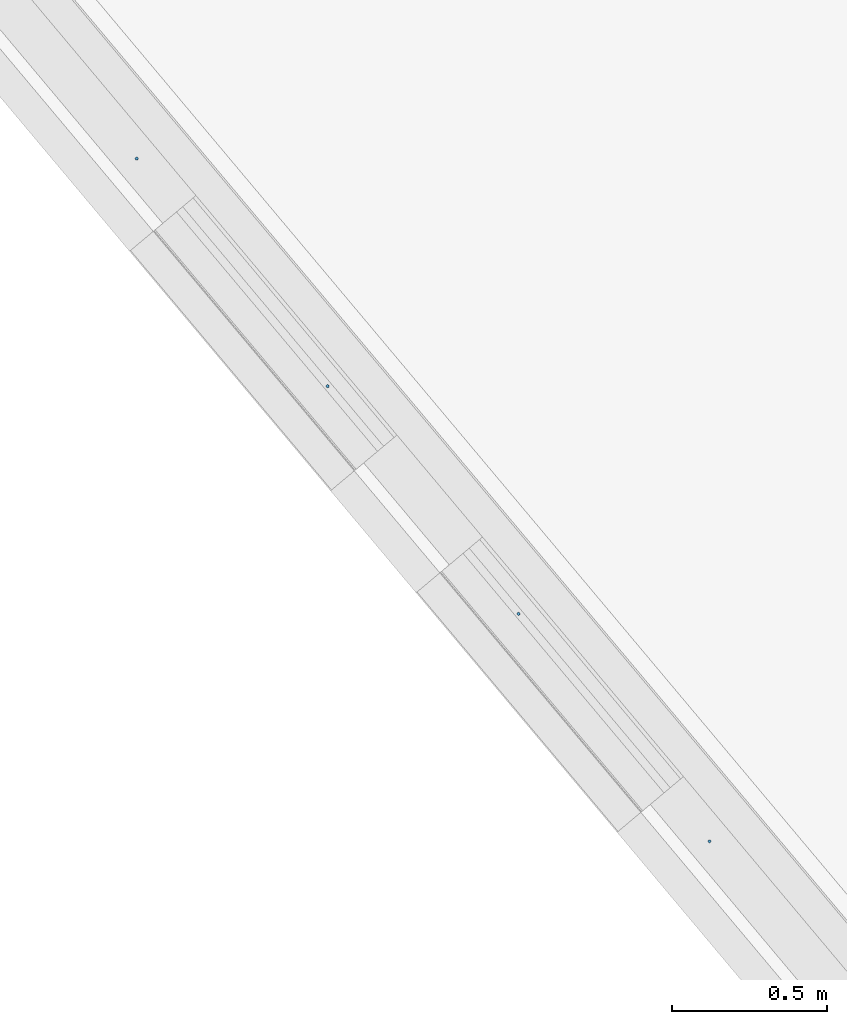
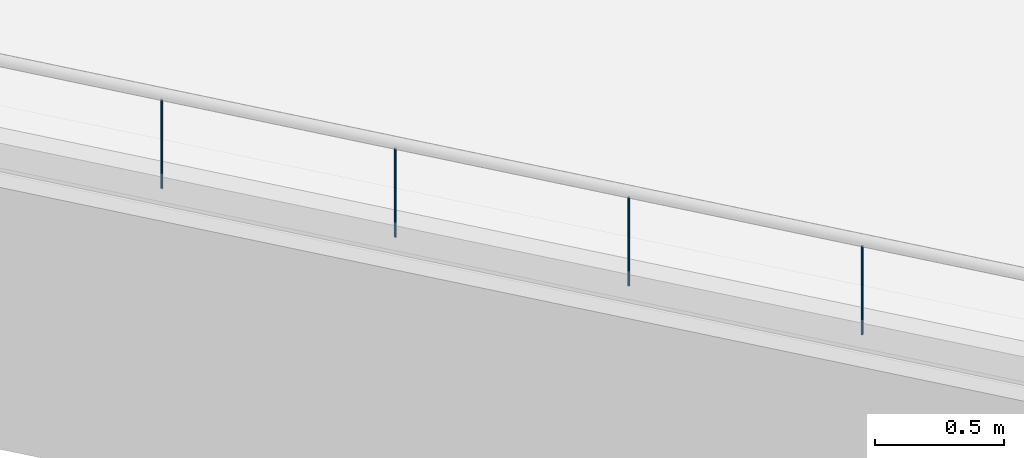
# One storey, part 8 of 321: 4 members, 1 element without a shape of its own.
"""IFC2X3 building model written with IfcOpenShell, lengths in millimetres."""

from ifc_helpers import new_model, entity, si_unit, converted_unit, derived_unit, money_unit, direction, frame, origin_with_axes, place, context, subcontext, project, spatial, faceted_brep, source, transform, mapped, material, type_object, type_shapes, element, aggregate, save


model = new_model("IFC2X3")

# Units and contexts
model_context = context("Model", 3, precision=0.01, world=origin_with_axes(), true_north=direction((0.0, 1.0)))
plan_context = context("Plan", 3, precision=0.01, world=origin_with_axes(), true_north=direction((0.0, 1.0)))
body_context = subcontext(model_context, "Body", "Model", "MODEL_VIEW")
ifc_project = project(units=[si_unit("LENGTHUNIT", "METRE", prefix="MILLI"), si_unit("AREAUNIT", "SQUARE_METRE"), si_unit("VOLUMEUNIT", "CUBIC_METRE"), converted_unit("PLANEANGLEUNIT", "DEGREE", entity("IfcPlaneAngleMeasure", 0.0174532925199), si_unit("PLANEANGLEUNIT", "RADIAN"), dimensions=[0, 0, 0, 0, 0, 0, 0]), money_unit("EUR"), converted_unit("TIMEUNIT", "Year", entity("IfcTimeMeasure", 31556926.0), si_unit("TIMEUNIT", "SECOND"), dimensions=[0, 0, 1, 0, 0, 0, 0]), si_unit("MASSUNIT", "GRAM", prefix="KILO"), si_unit("THERMODYNAMICTEMPERATUREUNIT", "DEGREE_CELSIUS"), si_unit("LUMINOUSINTENSITYUNIT", "LUMEN"), si_unit("ENERGYUNIT", "JOULE", prefix="MEGA"), derived_unit("THERMALCONDUCTANCEUNIT", [(si_unit("POWERUNIT", "WATT"), 1), (si_unit("LENGTHUNIT", "METRE"), -1), (si_unit("THERMODYNAMICTEMPERATUREUNIT", "KELVIN"), -1)]), derived_unit("SPECIFICHEATCAPACITYUNIT", [(si_unit("ENERGYUNIT", "JOULE"), 1), (si_unit("MASSUNIT", "GRAM", prefix="KILO"), -1), (si_unit("THERMODYNAMICTEMPERATUREUNIT", "KELVIN"), -1)]), derived_unit("MASSDENSITYUNIT", [(si_unit("MASSUNIT", "GRAM", prefix="KILO"), 1), (si_unit("VOLUMEUNIT", "CUBIC_METRE"), -1)])], contexts=[model_context, plan_context])

# Site, building, storey
site_placement = place(None, origin_with_axes())
site = spatial("IfcSite", under=ifc_project, at=site_placement, Name="Fortuinstraat Woensdrecht", CompositionType="ELEMENT")
building_placement = place(site_placement, origin_with_axes())
building = spatial("IfcBuilding", under=site, at=building_placement, Name="IKC Fortuna", CompositionType="ELEMENT")
storey_placement = place(building_placement, frame((0.0, 0.0, 4000.0), z_axis=(0.0, 0.0, 1.0), x_axis=(1.0, 0.0, 0.0)))
storey = spatial("IfcBuildingStorey", under=building, at=storey_placement, Name="01 eerste verdieping", CompositionType="ELEMENT", Elevation=4000.0)

# Railing, members
railing_type = type_object("IfcRailingType", Name="Railing Type", PredefinedType="NOTDEFINED")
railing_placement = place(storey_placement, frame((4151.56334028, 3601.06192057, 2353.5), z_axis=(0.0, 0.0, 1.0), x_axis=(1.0, 0.0, 0.0)))
railing = element("IfcRailing", 1, at=railing_placement, inside=storey, type_object=railing_type, Name="34_Reling_Reling vide", PredefinedType="NOTDEFINED")
ifc_material = material(Name="Metaal - Staal AFW")
member_type = type_object("IfcMemberType", Name="IfcMember", PredefinedType="MEMBER")
shared_shape = source(origin_with_axes(), body_context, "Body", "Brep", [
    faceted_brep([(0.0, -5.0, 0.0), (0.868240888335, -4.92403876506, 0.0), (0.868240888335, -4.92403876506, 418.5), (0.0, -5.0, 418.5), (-0.868240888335, -4.92403876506, 0.0), (-1.71010071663, -4.69846310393, 0.0), (-2.5, -4.33012701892, 0.0), (-3.21393804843, -3.83022221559, 0.0), (-3.83022221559, -3.21393804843, 0.0), (-4.33012701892, -2.5, 0.0), (-4.69846310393, -1.71010071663, 0.0), (-4.92403876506, -0.868240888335, 0.0), (-5.0, 0.0, 0.0), (-4.92403876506, 0.868240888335, 0.0), (-4.69846310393, 1.71010071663, 0.0), (-4.33012701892, 2.5, 0.0), (-3.83022221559, 3.21393804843, 0.0), (-3.21393804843, 3.83022221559, 0.0), (-2.5, 4.33012701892, 0.0), (-1.71010071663, 4.69846310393, 0.0), (-0.868240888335, 4.92403876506, 0.0), (0.0, 5.0, 0.0), (0.868240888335, 4.92403876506, 0.0), (1.71010071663, 4.69846310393, 0.0), (2.5, 4.33012701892, 0.0), (3.21393804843, 3.83022221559, 0.0), (3.83022221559, 3.21393804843, 0.0), (4.33012701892, 2.5, 0.0), (4.69846310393, 1.71010071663, 0.0), (4.92403876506, 0.868240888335, 0.0), (5.0, 0.0, 0.0), (4.92403876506, -0.868240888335, 0.0), (4.69846310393, -1.71010071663, 0.0), (4.33012701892, -2.5, 0.0), (3.83022221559, -3.21393804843, 0.0), (3.21393804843, -3.83022221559, 0.0), (2.5, -4.33012701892, 0.0), (1.71010071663, -4.69846310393, 0.0), (1.71010071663, -4.69846310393, 418.5), (2.5, -4.33012701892, 418.5), (3.21393804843, -3.83022221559, 418.5), (3.83022221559, -3.21393804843, 418.5), (4.33012701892, -2.5, 418.5), (4.69846310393, -1.71010071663, 418.5), (4.92403876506, -0.868240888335, 418.5), (5.0, 0.0, 418.5), (4.92403876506, 0.868240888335, 418.5), (4.69846310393, 1.71010071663, 418.5), (4.33012701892, 2.5, 418.5), (3.83022221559, 3.21393804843, 418.5), (3.21393804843, 3.83022221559, 418.5), (2.5, 4.33012701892, 418.5), (1.71010071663, 4.69846310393, 418.5), (0.868240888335, 4.92403876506, 418.5), (0.0, 5.0, 418.5), (-0.868240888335, 4.92403876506, 418.5), (-1.71010071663, 4.69846310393, 418.5), (-2.5, 4.33012701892, 418.5), (-3.21393804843, 3.83022221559, 418.5), (-3.83022221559, 3.21393804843, 418.5), (-4.33012701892, 2.5, 418.5), (-4.69846310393, 1.71010071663, 418.5), (-4.92403876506, 0.868240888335, 418.5), (-5.0, 0.0, 418.5), (-4.92403876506, -0.868240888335, 418.5), (-4.69846310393, -1.71010071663, 418.5), (-4.33012701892, -2.5, 418.5), (-3.83022221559, -3.21393804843, 418.5), (-3.21393804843, -3.83022221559, 418.5), (-2.5, -4.33012701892, 418.5), (-1.71010071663, -4.69846310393, 418.5), (-0.868240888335, -4.92403876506, 418.5)], [[[0, 1, 2, 3]], [[0, 4, 5, 6, 7, 8, 9, 10, 11, 12, 13, 14, 15, 16, 17, 18, 19, 20, 21, 22, 23, 24, 25, 26, 27, 28, 29, 30, 31, 32, 33, 34, 35, 36, 37, 1]], [[1, 37, 38, 2]], [[3, 2, 38, 39, 40, 41, 42, 43, 44, 45, 46, 47, 48, 49, 50, 51, 52, 53, 54, 55, 56, 57, 58, 59, 60, 61, 62, 63, 64, 65, 66, 67, 68, 69, 70, 71]], [[4, 0, 3, 71]], [[5, 4, 71, 70]], [[6, 5, 70, 69]], [[7, 6, 69, 68]], [[8, 7, 68, 67]], [[9, 8, 67, 66]], [[10, 9, 66, 65]], [[11, 10, 65, 64]], [[12, 11, 64, 63]], [[13, 12, 63, 62]], [[14, 13, 62, 61]], [[15, 14, 61, 60]], [[16, 15, 60, 59]], [[17, 16, 59, 58]], [[18, 17, 58, 57]], [[19, 18, 57, 56]], [[20, 19, 56, 55]], [[21, 20, 55, 54]], [[22, 21, 54, 53]], [[23, 22, 53, 52]], [[24, 23, 52, 51]], [[25, 24, 51, 50]], [[26, 25, 50, 49]], [[27, 26, 49, 48]], [[28, 27, 48, 47]], [[29, 28, 47, 46]], [[30, 29, 46, 45]], [[31, 30, 45, 44]], [[32, 31, 44, 43]], [[33, 32, 43, 42]], [[34, 33, 42, 41]], [[35, 34, 41, 40]], [[36, 35, 40, 39]], [[37, 36, 39, 38]]]),
])
type_shapes(member_type, [shared_shape])
member_1_placement = place(railing_placement, frame((1917.22577102, -10942.4638123, -18.5), z_axis=(0.0, 0.0, 1.0), x_axis=(1.0, 0.0, 0.0)))
member_1 = element("IfcMember", 2, at=member_1_placement, type_object=member_type, material=ifc_material, Name="_Onderdeel_Spijlen-x", ObjectType="MEMBER", context=body_context, shape_type="MappedRepresentation", body=[
    mapped(shared_shape, transform((0.0, 0.0, 0.0), x_axis=(-0.766044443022, -0.642787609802, 0.0), y_axis=(0.642787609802, -0.766044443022, 0.0), z_axis=(0.0, 0.0, 1.0))),
])
member_2_placement = place(railing_placement, frame((2533.96650652, -11677.4667993, -18.5), z_axis=(0.0, 0.0, 1.0), x_axis=(1.0, 0.0, 0.0)))
member_2 = element("IfcMember", 3, at=member_2_placement, type_object=member_type, material=ifc_material, Name="_Onderdeel_Spijlen-x", ObjectType="MEMBER", context=body_context, shape_type="MappedRepresentation", body=[
    mapped(shared_shape, transform((0.0, 0.0, 0.0), x_axis=(-0.766044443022, -0.642787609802, 0.0), y_axis=(0.642787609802, -0.766044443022, 0.0), z_axis=(0.0, 0.0, 1.0))),
])
member_3_placement = place(railing_placement, frame((3150.70724202, -12412.4697863, -18.5), z_axis=(0.0, 0.0, 1.0), x_axis=(1.0, 0.0, 0.0)))
member_3 = element("IfcMember", 4, at=member_3_placement, type_object=member_type, material=ifc_material, Name="_Onderdeel_Spijlen-x", ObjectType="MEMBER", context=body_context, shape_type="MappedRepresentation", body=[
    mapped(shared_shape, transform((0.0, 0.0, 0.0), x_axis=(-0.766044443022, -0.642787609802, 0.0), y_axis=(0.642787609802, -0.766044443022, 0.0), z_axis=(0.0, 0.0, 1.0))),
])
member_4_placement = place(railing_placement, frame((3767.44797752, -13147.4727733, -18.5), z_axis=(0.0, 0.0, 1.0), x_axis=(1.0, 0.0, 0.0)))
member_4 = element("IfcMember", 5, at=member_4_placement, type_object=member_type, material=ifc_material, Name="_Onderdeel_Spijlen-x", ObjectType="MEMBER", context=body_context, shape_type="MappedRepresentation", body=[
    mapped(shared_shape, transform((0.0, 0.0, 0.0), x_axis=(-0.766044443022, -0.642787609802, 0.0), y_axis=(0.642787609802, -0.766044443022, 0.0), z_axis=(0.0, 0.0, 1.0))),
])
aggregate(railing, [member_1, member_2, member_3, member_4])

save(model, "model.ifc")
